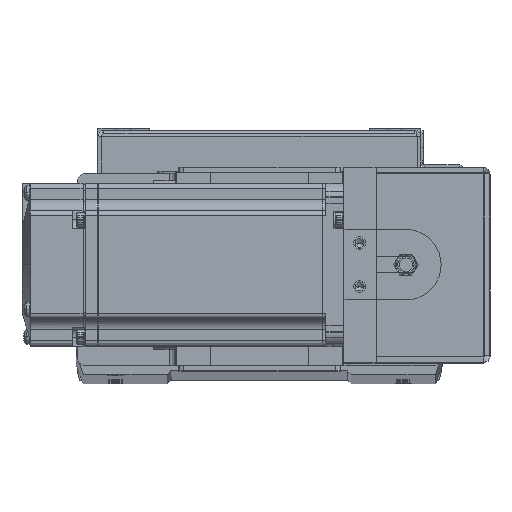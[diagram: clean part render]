
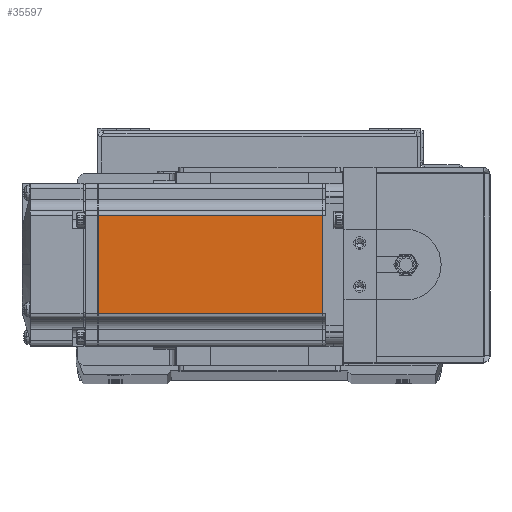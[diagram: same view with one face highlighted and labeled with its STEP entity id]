
A CAD part, top view. The second image highlights one B-rep face of the part: STEP entity #35597.
In plain terms, the highlighted planar face has unit normal (0, 0, 1).
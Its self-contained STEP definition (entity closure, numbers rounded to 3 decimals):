
#1731 = FACE_OUTER_BOUND ( 'NONE', #14534, .T. ) ;
#2993 = CARTESIAN_POINT ( 'NONE',  ( -90.45, 18., 30. ) ) ;
#4625 = EDGE_CURVE ( 'NONE', #26185, #21032, #14915, .T. ) ;
#4680 = LINE ( 'NONE', #17379, #33022 ) ;
#7308 = ORIENTED_EDGE ( 'NONE', *, *, #13207, .F. ) ;
#8695 = CARTESIAN_POINT ( 'NONE',  ( -7.75, 18., 30. ) ) ;
#8984 = CARTESIAN_POINT ( 'NONE',  ( -7.75, -18., 30. ) ) ;
#9149 = EDGE_CURVE ( 'NONE', #21858, #21032, #4680, .T. ) ;
#10216 = ORIENTED_EDGE ( 'NONE', *, *, #4625, .F. ) ;
#12907 = DIRECTION ( 'NONE',  ( -1., 0., 0. ) ) ;
#13207 = EDGE_CURVE ( 'NONE', #32505, #26185, #14997, .T. ) ;
#14534 = EDGE_LOOP ( 'NONE', ( #7308, #33158, #25104, #10216 ) ) ;
#14915 = LINE ( 'NONE', #36131, #33653 ) ;
#14997 = LINE ( 'NONE', #35840, #15858 ) ;
#15858 = VECTOR ( 'NONE', #20758, 1000. ) ;
#16263 = DIRECTION ( 'NONE',  ( 0., 0., 1. ) ) ;
#17028 = PLANE ( 'NONE',  #38036 ) ;
#17379 = CARTESIAN_POINT ( 'NONE',  ( -90.45, 0., 30. ) ) ;
#19431 = CARTESIAN_POINT ( 'NONE',  ( -6.5, 18., 30. ) ) ;
#20021 = DIRECTION ( 'NONE',  ( 1., 0., 0. ) ) ;
#20758 = DIRECTION ( 'NONE',  ( 0., -1., 0. ) ) ;
#21032 = VERTEX_POINT ( 'NONE', #32101 ) ;
#21858 = VERTEX_POINT ( 'NONE', #2993 ) ;
#23128 = DIRECTION ( 'NONE',  ( 0., -1., 0. ) ) ;
#25104 = ORIENTED_EDGE ( 'NONE', *, *, #9149, .T. ) ;
#25611 = EDGE_CURVE ( 'NONE', #32505, #21858, #31352, .T. ) ;
#26185 = VERTEX_POINT ( 'NONE', #8984 ) ;
#27871 = VECTOR ( 'NONE', #12907, 1000. ) ;
#31352 = LINE ( 'NONE', #19431, #27871 ) ;
#31357 = CARTESIAN_POINT ( 'NONE',  ( -6.5, -25., 30. ) ) ;
#32101 = CARTESIAN_POINT ( 'NONE',  ( -90.45, -18., 30. ) ) ;
#32505 = VERTEX_POINT ( 'NONE', #8695 ) ;
#33022 = VECTOR ( 'NONE', #23128, 1000. ) ;
#33158 = ORIENTED_EDGE ( 'NONE', *, *, #25611, .T. ) ;
#33653 = VECTOR ( 'NONE', #35548, 1000. ) ;
#35548 = DIRECTION ( 'NONE',  ( -1., 0., 0. ) ) ;
#35597 = ADVANCED_FACE ( 'NONE', ( #1731 ), #17028, .T. ) ;
#35840 = CARTESIAN_POINT ( 'NONE',  ( -7.75, 0., 30. ) ) ;
#36131 = CARTESIAN_POINT ( 'NONE',  ( -6.5, -18., 30. ) ) ;
#38036 = AXIS2_PLACEMENT_3D ( 'NONE', #31357, #16263, #20021 ) ;
